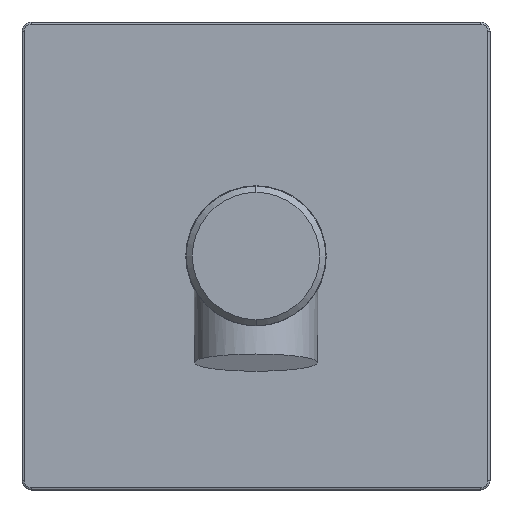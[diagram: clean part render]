
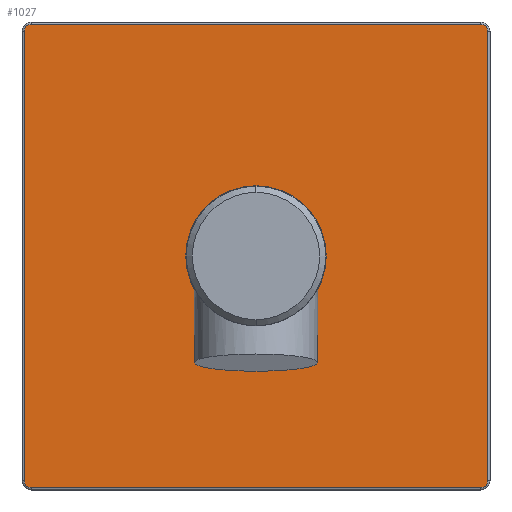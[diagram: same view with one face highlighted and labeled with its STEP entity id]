
A CAD part, front view. The second image highlights one B-rep face of the part: STEP entity #1027.
In plain terms, the highlighted planar face has unit normal (0, -1, 0).
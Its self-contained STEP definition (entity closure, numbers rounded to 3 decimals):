
#21=CARTESIAN_POINT('',(0.,31.5,0.));
#22=DIRECTION('',(0.,1.,0.));
#23=DIRECTION('',(-1.,0.,0.));
#24=AXIS2_PLACEMENT_3D('',#21,#22,#23);
#30=CARTESIAN_POINT('',(-48.,31.5,-48.));
#31=DIRECTION('',(0.,1.,0.));
#32=DIRECTION('',(0.,0.,-1.));
#33=AXIS2_PLACEMENT_3D('',#30,#31,#32);
#35=CARTESIAN_POINT('',(-48.,31.5,48.));
#36=DIRECTION('',(0.,1.,0.));
#37=DIRECTION('',(-1.,0.,0.));
#38=AXIS2_PLACEMENT_3D('',#35,#36,#37);
#40=CARTESIAN_POINT('',(48.,31.5,48.));
#41=DIRECTION('',(0.,1.,0.));
#42=DIRECTION('',(0.,0.,1.));
#43=AXIS2_PLACEMENT_3D('',#40,#41,#42);
#45=CARTESIAN_POINT('',(48.,31.5,-48.));
#46=DIRECTION('',(0.,1.,0.));
#47=DIRECTION('',(1.,0.,0.));
#48=AXIS2_PLACEMENT_3D('',#45,#46,#47);
#65=DIRECTION('',(1.,0.,0.));
#66=VECTOR('',#65,96.);
#67=CARTESIAN_POINT('',(-48.,31.5,-49.5));
#68=LINE('',#67,#66);
#88=DIRECTION('',(0.,0.,1.));
#89=VECTOR('',#88,96.);
#90=CARTESIAN_POINT('',(49.5,31.5,-48.));
#91=LINE('',#90,#89);
#111=DIRECTION('',(-1.,0.,0.));
#112=VECTOR('',#111,96.);
#113=CARTESIAN_POINT('',(48.,31.5,49.5));
#114=LINE('',#113,#112);
#134=DIRECTION('',(0.,0.,-1.));
#135=VECTOR('',#134,96.);
#136=CARTESIAN_POINT('',(-49.5,31.5,48.));
#137=LINE('',#136,#135);
#290=CARTESIAN_POINT('',(0.,31.5,0.));
#291=DIRECTION('',(0.,1.,0.));
#292=DIRECTION('',(1.,0.,0.));
#293=AXIS2_PLACEMENT_3D('',#290,#291,#292);
#898=CARTESIAN_POINT('',(-48.,31.5,-49.5));
#899=CARTESIAN_POINT('',(-49.5,31.5,-48.));
#900=VERTEX_POINT('',#898);
#901=VERTEX_POINT('',#899);
#902=CARTESIAN_POINT('',(-49.5,31.5,48.));
#903=VERTEX_POINT('',#902);
#904=CARTESIAN_POINT('',(-48.,31.5,49.5));
#905=VERTEX_POINT('',#904);
#906=CARTESIAN_POINT('',(48.,31.5,49.5));
#907=VERTEX_POINT('',#906);
#908=CARTESIAN_POINT('',(49.5,31.5,48.));
#909=VERTEX_POINT('',#908);
#910=CARTESIAN_POINT('',(49.5,31.5,-48.));
#911=VERTEX_POINT('',#910);
#912=CARTESIAN_POINT('',(48.,31.5,-49.5));
#913=VERTEX_POINT('',#912);
#962=CARTESIAN_POINT('',(-14.9,31.5,0.));
#963=CARTESIAN_POINT('',(14.9,31.5,0.));
#964=VERTEX_POINT('',#962);
#965=VERTEX_POINT('',#963);
#999=CARTESIAN_POINT('',(0.,31.5,0.));
#1000=DIRECTION('',(0.,1.,0.));
#1001=DIRECTION('',(1.,0.,0.));
#1002=AXIS2_PLACEMENT_3D('',#999,#1000,#1001);
#1003=PLANE('',#1002);
#1005=ORIENTED_EDGE('',*,*,#1004,.T.);
#1007=ORIENTED_EDGE('',*,*,#1006,.F.);
#1009=ORIENTED_EDGE('',*,*,#1008,.T.);
#1011=ORIENTED_EDGE('',*,*,#1010,.F.);
#1013=ORIENTED_EDGE('',*,*,#1012,.T.);
#1015=ORIENTED_EDGE('',*,*,#1014,.F.);
#1017=ORIENTED_EDGE('',*,*,#1016,.T.);
#1019=ORIENTED_EDGE('',*,*,#1018,.F.);
#1020=EDGE_LOOP('',(#1005,#1007,#1009,#1011,#1013,#1015,#1017,#1019));
#1021=FACE_OUTER_BOUND('',#1020,.F.);
#1022=ORIENTED_EDGE('',*,*,#989,.F.);
#1024=ORIENTED_EDGE('',*,*,#1023,.F.);
#1025=EDGE_LOOP('',(#1022,#1024));
#1026=FACE_BOUND('',#1025,.F.);
#1027=ADVANCED_FACE('',(#1021,#1026),#1003,.F.);
#25=CIRCLE('',#24,14.9);
#34=CIRCLE('',#33,1.5);
#39=CIRCLE('',#38,1.5);
#44=CIRCLE('',#43,1.5);
#49=CIRCLE('',#48,1.5);
#294=CIRCLE('',#293,14.9);
#989=EDGE_CURVE('',#964,#965,#25,.T.);
#1004=EDGE_CURVE('',#900,#901,#34,.T.);
#1006=EDGE_CURVE('',#903,#901,#137,.T.);
#1008=EDGE_CURVE('',#903,#905,#39,.T.);
#1010=EDGE_CURVE('',#907,#905,#114,.T.);
#1012=EDGE_CURVE('',#907,#909,#44,.T.);
#1014=EDGE_CURVE('',#911,#909,#91,.T.);
#1016=EDGE_CURVE('',#911,#913,#49,.T.);
#1018=EDGE_CURVE('',#900,#913,#68,.T.);
#1023=EDGE_CURVE('',#965,#964,#294,.T.);
